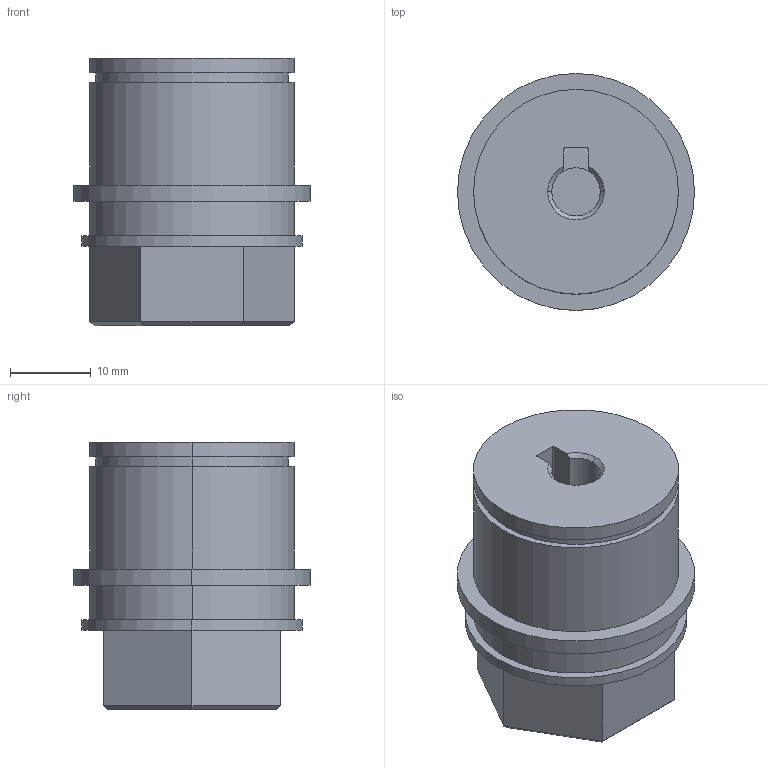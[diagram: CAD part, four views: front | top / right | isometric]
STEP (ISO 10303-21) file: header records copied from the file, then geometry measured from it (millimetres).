
FILE_DESCRIPTION (( 'STEP AP214' ), '1' );
FILE_NAME ('P-00011 - Motor Coupler - v2.2.0_Shorter Coupler Threaded.STEP', '2026-06-12T21:50:45', ( '' ), ( '' ), 'SwSTEP 2.0', 'SolidWorks 2023', '' );
FILE_SCHEMA (( 'AUTOMOTIVE_DESIGN' ));
Length unit declared in the file: inch
Products named in the file (1): P-00011 - Motor Coupler - v2.2.0_Shorter Coupler Threaded
Bounding box: 29.4 x 29.4 x 33.2 mm (x, y, z)
Volume: 15702.9 mm3; surface area: 4717.5 mm2
Topology: 1 solids, 1 shells, 48 faces, 107 edges, 67 vertices
Faces by surface type: plane 25, cylinder 18, cone 5
Entity records: 1347 total; most frequent: DIRECTION 242, CARTESIAN_POINT 227, ORIENTED_EDGE 210, EDGE_CURVE 105, AXIS2_PLACEMENT_3D 90, VERTEX_POINT 67, VECTOR 62, LINE 62
